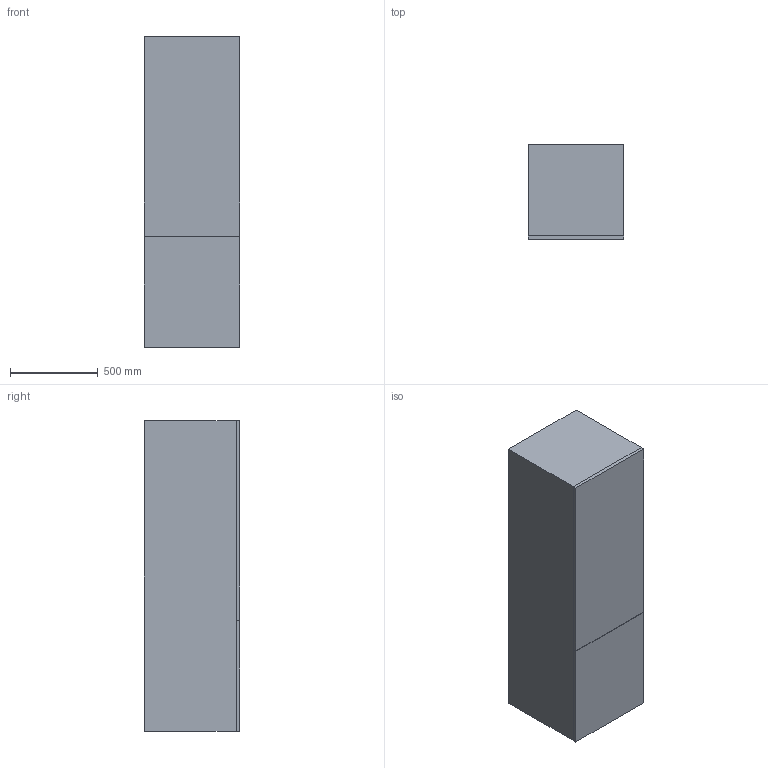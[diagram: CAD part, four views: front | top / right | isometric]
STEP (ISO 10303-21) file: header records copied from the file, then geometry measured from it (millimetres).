
FILE_DESCRIPTION(/* description */ (''),/* implementation_level */ '2;1');
FILE_NAME(/* name */ 'CCOI178NBH6VIL',/* time_stamp */ '2025-12-16T09:30:36+01:00',/* author */ (''),/* organization */ (''),/* preprocessor_version */ 'ST-DEVELOPER v16.5',/* originating_system */ 'Rhino 7.38',/* authorisation */ '');
FILE_SCHEMA (('AUTOMOTIVE_DESIGN'));
Length unit declared in the file: millimetre
Products named in the file (1): Document
Bounding box: 548 x 545 x 1777 mm (x, y, z)
Volume: 530685940 mm3; surface area: 6447946 mm2
Topology: 3 solids, 3 shells, 18 faces, 36 edges, 24 vertices
Faces by surface type: plane 18
Entity records: 437 total; most frequent: CARTESIAN_POINT 116, ORIENTED_EDGE 72, EDGE_CURVE 36, B_SPLINE_CURVE_WITH_KNOTS 36, VERTEX_POINT 24, DIRECTION 22, AXIS2_PLACEMENT_3D 20, ADVANCED_FACE 18
